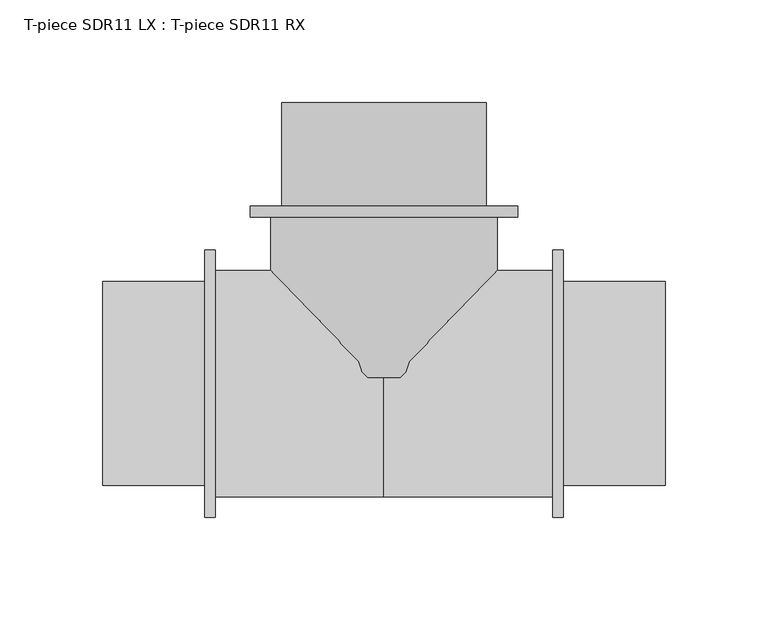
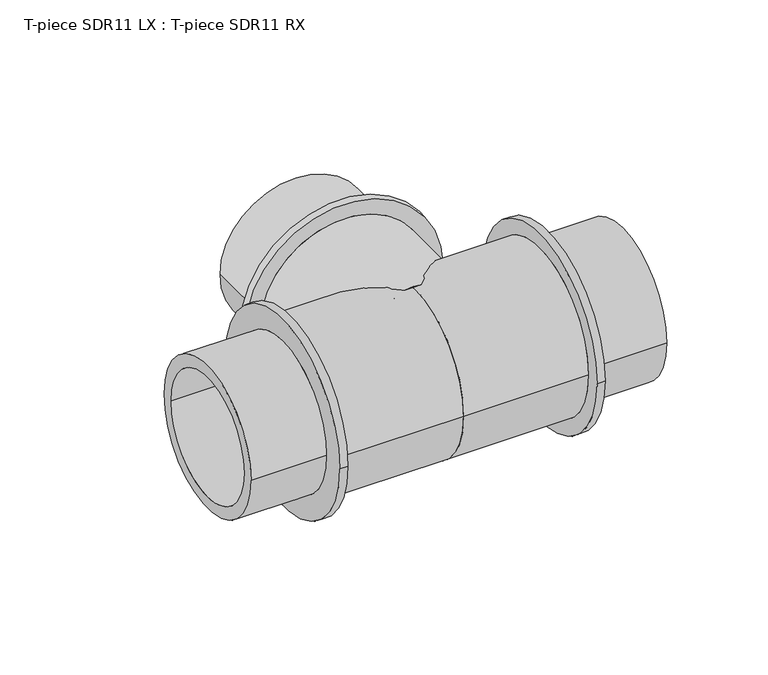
"""IFC4 building model written with IfcOpenShell, lengths in millimetres: pipe fitting geometry, T-piece SDR11 LX : T-piece SDR11 RX."""

from ifc_helpers import new_model, si_unit, point, frame, origin, place, context, project, spatial, polyline, circle_curve, ellipse_curve, trimmed, source, transform, mapped, element, save
from ifc_brep_helpers import plane_surface, cylinder_surface, revolved_surface, advanced_brep


def t_piece_sdr11_lx_t_piece_sdr11_rx_ce744061(model_context):
    return source(origin(), model_context, "Body", "AdvancedBrep", [
        advanced_brep(
        [(55.0, 2.9116037, 0.0), (-55.0, 2.9116037, 0.0), (-55.0, 81.0, 0.0), (55.0, 81.0, 0.0), (41.5, 136.5, 0.0), (-41.5, 136.5, 0.0), (-41.5, 0.0, 0.0), (41.5, 0.0, 0.0), (49.65, 86.3, 0.0), (-49.65, 86.3, 0.0), (-49.65, 136.5, 0.0), (49.65, 136.5, 0.0), (65.0, 81.0, 0.0), (-65.0, 81.0, 0.0), (-65.0, 86.3, 0.0), (65.0, 86.3, 0.0)],
        [
            (0, 1, circle_curve(frame((0.0, 2.9116037, 0.0), z_axis=(0.0, 1.0, 0.0), x_axis=(-1.0, 0.0, 0.0)), 55.0)),
            (1, 2),
            (2, 3, circle_curve(frame((0.0, 81.0, 0.0), z_axis=(0.0, -1.0, 0.0), x_axis=(-1.0, 0.0, 0.0)), 55.0)),
            (3, 0),
            (4, 5, circle_curve(frame((0.0, 136.5, 0.0), z_axis=(0.0, 1.0, 0.0), x_axis=(-1.0, 0.0, 0.0)), 41.5)),
            (5, 6),
            (6, 7, circle_curve(frame((0.0, 0.0, 0.0), z_axis=(0.0, -1.0, 0.0), x_axis=(-1.0, 0.0, 0.0)), 41.5)),
            (7, 4),
            (8, 9, circle_curve(frame((0.0, 86.3, 0.0), z_axis=(0.0, 1.0, 0.0), x_axis=(-1.0, 0.0, 0.0)), 49.65)),
            (9, 10),
            (10, 11, circle_curve(frame((0.0, 136.5, 0.0), z_axis=(0.0, -1.0, 0.0), x_axis=(-1.0, 0.0, 0.0)), 49.65)),
            (11, 8),
            (12, 13, circle_curve(frame((0.0, 81.0, 0.0), z_axis=(0.0, 1.0, 0.0), x_axis=(-1.0, 0.0, 0.0)), 65.0)),
            (13, 14),
            (14, 15, circle_curve(frame((0.0, 86.3, 0.0), z_axis=(0.0, -1.0, 0.0), x_axis=(-1.0, 0.0, 0.0)), 65.0)),
            (15, 12),
            (12, 13, circle_curve(frame((0.0, 81.0, 0.0), z_axis=(0.0, -1.0, 0.0), x_axis=(1.0, 0.0, 0.0)), 65.0)),
            (2, 3, circle_curve(frame((0.0, 81.0, 0.0), z_axis=(0.0, 1.0, 0.0), x_axis=(1.0, 0.0, 0.0)), 55.0)),
            (1, 0, circle_curve(frame((0.0, 2.9116037, 0.0), z_axis=(0.0, 1.0, 0.0), x_axis=(1.0, 0.0, 0.0)), 55.0)),
            (5, 4, circle_curve(frame((0.0, 136.5, 0.0), z_axis=(0.0, 1.0, 0.0), x_axis=(1.0, 0.0, 0.0)), 41.5)),
            (7, 6, circle_curve(frame((0.0, 0.0, 0.0), z_axis=(0.0, -1.0, 0.0), x_axis=(1.0, 0.0, 0.0)), 41.5)),
            (10, 11, circle_curve(frame((0.0, 136.5, 0.0), z_axis=(0.0, 1.0, 0.0), x_axis=(1.0, 0.0, 0.0)), 49.65)),
            (9, 8, circle_curve(frame((0.0, 86.3, 0.0), z_axis=(0.0, 1.0, 0.0), x_axis=(1.0, 0.0, 0.0)), 49.65)),
            (14, 15, circle_curve(frame((0.0, 86.3, 0.0), z_axis=(0.0, 1.0, 0.0), x_axis=(1.0, 0.0, 0.0)), 65.0)),
            (6, 1, circle_curve(frame((-36.7462802, 54.7941799, 0.0), z_axis=(0.0, 0.0, -1.0), x_axis=(0.0, -1.0, 0.0)), 55.0)),
            (0, 7, circle_curve(frame((36.7462802, 54.7941799, 0.0), z_axis=(0.0, 0.0, -1.0), x_axis=(0.0, -1.0, 0.0)), 55.0)),
        ],
        [
            cylinder_surface(frame((0.0, 0.0, 0.0), z_axis=(0.0, -1.0, 0.0), x_axis=(-1.0, 0.0, 0.0)), 55.0),
            revolved_surface(polyline([(-41.5, 0.0, 0.0), (-41.5, 136.5, 0.0)]), (0.0, 0.0, 0.0), (0.0, -1.0, 0.0)),
            cylinder_surface(frame((0.0, 0.0, 0.0), z_axis=(0.0, -1.0, 0.0), x_axis=(-1.0, 0.0, 0.0)), 49.65),
            cylinder_surface(frame((0.0, 0.0, 0.0), z_axis=(0.0, -1.0, 0.0), x_axis=(-1.0, 0.0, 0.0)), 65.0),
            plane_surface(frame((0.0, 81.0, 0.0), z_axis=(0.0, -1.0, 0.0), x_axis=(1.0, 0.0, 0.0))),
            cylinder_surface(frame((0.0, 0.0, 0.0), z_axis=(0.0, -1.0, 0.0), x_axis=(1.0, 0.0, 0.0)), 55.0),
            revolved_surface(polyline([(41.5, 0.0, 0.0), (41.5, 136.5, 0.0)]), (0.0, 0.0, 0.0), (0.0, -1.0, 0.0)),
            plane_surface(frame((0.0, 136.5, 0.0), z_axis=(0.0, 1.0, 0.0), x_axis=(1.0, 0.0, 0.0))),
            cylinder_surface(frame((0.0, 0.0, 0.0), z_axis=(0.0, -1.0, 0.0), x_axis=(1.0, 0.0, 0.0)), 49.65),
            plane_surface(frame((0.0, 86.3, 0.0), z_axis=(0.0, 1.0, 0.0), x_axis=(1.0, 0.0, 0.0))),
            cylinder_surface(frame((0.0, 0.0, 0.0), z_axis=(0.0, -1.0, 0.0), x_axis=(1.0, 0.0, 0.0)), 65.0),
            revolved_surface(trimmed(ellipse_curve(frame((-36.7462802, 54.7941799, 0.0), z_axis=(0.0, 0.0, 1.0), x_axis=(0.0, -1.0, 0.0)), 55.0, 55.0), [point((-55.0, 2.9116037, 0.0))], [point((-41.5, 0.0, 0.0))], True, "CARTESIAN"), (0.0, 0.0, 0.0), (0.0, -1.0, 0.0)),
            revolved_surface(trimmed(ellipse_curve(frame((36.7462802, 54.7941799, 0.0), z_axis=(0.0, 0.0, -1.0), x_axis=(0.0, -1.0, 0.0)), 55.0, 55.0), [point((55.0, 2.9116037, 0.0))], [point((41.5, 0.0, 0.0))], True, "CARTESIAN"), (0.0, 0.0, 0.0), (0.0, -1.0, 0.0)),
        ],
        [
            (0, [[1, 2, 3, 4]]),
            (1, [[5, 6, 7, 8]]),
            (2, [[9, 10, 11, 12]]),
            (3, [[13, 14, 15, 16]]),
            (4, [[17, -13], [18, -3]]),
            (5, [[19, -4, -18, -2]]),
            (6, [[20, -8, 21, -6]]),
            (7, [[22, -11], [-20, -5]]),
            (8, [[23, -12, -22, -10]]),
            (9, [[24, -15], [-23, -9]]),
            (10, [[-17, -16, -24, -14]]),
            (11, [[-7, 25, -1, 26]]),
            (12, [[-21, -26, -19, -25]]),
        ],
    ),
        advanced_brep(
        [(81.9, 55.0, 0.0), (81.9, -55.0, 0.0), (0.0, -55.0, 0.0), (0.0, 55.0, 0.0), (0.0, 41.5, 0.0), (0.0, -41.5, 0.0), (136.6, -41.5, 0.0), (136.6, 41.5, 0.0), (136.6, 49.65, 0.0), (136.6, -49.65, 0.0), (87.2, -49.65, 0.0), (87.2, 49.65, 0.0), (87.2, 65.0, 0.0), (87.2, -65.0, 0.0), (81.9, -65.0, 0.0), (81.9, 65.0, 0.0)],
        [
            (0, 1, circle_curve(frame((81.9, 0.0, 0.0), z_axis=(-1.0, 0.0, 0.0), x_axis=(0.0, -1.0, 0.0)), 55.0)),
            (1, 2),
            (2, 3, circle_curve(frame((0.0, 0.0, 0.0), z_axis=(1.0, 0.0, 0.0), x_axis=(0.0, -1.0, 0.0)), 55.0)),
            (3, 0),
            (4, 5, circle_curve(frame((0.0, 0.0, 0.0), z_axis=(-1.0, 0.0, 0.0), x_axis=(0.0, -1.0, 0.0)), 41.5)),
            (5, 6),
            (6, 7, circle_curve(frame((136.6, 0.0, 0.0), z_axis=(1.0, 0.0, 0.0), x_axis=(0.0, -1.0, 0.0)), 41.5)),
            (7, 4),
            (8, 9, circle_curve(frame((136.6, 0.0, 0.0), z_axis=(-1.0, 0.0, 0.0), x_axis=(0.0, -1.0, 0.0)), 49.65)),
            (9, 10),
            (10, 11, circle_curve(frame((87.2, 0.0, 0.0), z_axis=(1.0, 0.0, 0.0), x_axis=(0.0, -1.0, 0.0)), 49.65)),
            (11, 8),
            (12, 13, circle_curve(frame((87.2, 0.0, 0.0), z_axis=(-1.0, 0.0, 0.0), x_axis=(0.0, -1.0, 0.0)), 65.0)),
            (13, 14),
            (14, 15, circle_curve(frame((81.9, 0.0, 0.0), z_axis=(1.0, 0.0, 0.0), x_axis=(0.0, -1.0, 0.0)), 65.0)),
            (15, 12),
            (14, 15, circle_curve(frame((81.9, 0.0, 0.0), z_axis=(-1.0, 0.0, 0.0), x_axis=(0.0, 1.0, 0.0)), 65.0)),
            (0, 1, circle_curve(frame((81.9, 0.0, 0.0), z_axis=(1.0, 0.0, 0.0), x_axis=(0.0, 1.0, 0.0)), 55.0)),
            (3, 2, circle_curve(frame((0.0, 0.0, 0.0), z_axis=(1.0, 0.0, 0.0), x_axis=(0.0, 1.0, 0.0)), 55.0)),
            (4, 5, circle_curve(frame((0.0, 0.0, 0.0), z_axis=(1.0, 0.0, 0.0), x_axis=(0.0, 1.0, 0.0)), 41.5)),
            (7, 6, circle_curve(frame((136.6, 0.0, 0.0), z_axis=(1.0, 0.0, 0.0), x_axis=(0.0, 1.0, 0.0)), 41.5)),
            (8, 9, circle_curve(frame((136.6, 0.0, 0.0), z_axis=(1.0, 0.0, 0.0), x_axis=(0.0, 1.0, 0.0)), 49.65)),
            (11, 10, circle_curve(frame((87.2, 0.0, 0.0), z_axis=(1.0, 0.0, 0.0), x_axis=(0.0, 1.0, 0.0)), 49.65)),
            (12, 13, circle_curve(frame((87.2, 0.0, 0.0), z_axis=(1.0, 0.0, 0.0), x_axis=(0.0, 1.0, 0.0)), 65.0)),
        ],
        [
            cylinder_surface(frame((0.0, 0.0, 0.0), z_axis=(1.0, 0.0, 0.0), x_axis=(0.0, -1.0, 0.0)), 55.0),
            revolved_surface(polyline([(136.6, -41.5, 0.0), (0.0, -41.5, 0.0)]), (0.0, 0.0, 0.0), (1.0, 0.0, 0.0)),
            cylinder_surface(frame((0.0, 0.0, 0.0), z_axis=(1.0, 0.0, 0.0), x_axis=(0.0, -1.0, 0.0)), 49.65),
            cylinder_surface(frame((0.0, 0.0, 0.0), z_axis=(1.0, 0.0, 0.0), x_axis=(0.0, -1.0, 0.0)), 65.0),
            plane_surface(frame((81.9, 0.0, 0.0), z_axis=(-1.0, 0.0, 0.0), x_axis=(0.0, 1.0, 0.0))),
            cylinder_surface(frame((0.0, 0.0, 0.0), z_axis=(1.0, 0.0, 0.0), x_axis=(0.0, 1.0, 0.0)), 55.0),
            plane_surface(frame((0.0, 0.0, 0.0), z_axis=(-1.0, 0.0, 0.0), x_axis=(0.0, 1.0, 0.0))),
            revolved_surface(polyline([(136.6, 41.5, 0.0), (0.0, 41.5, 0.0)]), (0.0, 0.0, 0.0), (1.0, 0.0, 0.0)),
            plane_surface(frame((136.6, 0.0, 0.0), z_axis=(1.0, 0.0, 0.0), x_axis=(0.0, 1.0, 0.0))),
            cylinder_surface(frame((0.0, 0.0, 0.0), z_axis=(1.0, 0.0, 0.0), x_axis=(0.0, 1.0, 0.0)), 49.65),
            plane_surface(frame((87.2, 0.0, 0.0), z_axis=(1.0, 0.0, 0.0), x_axis=(0.0, 1.0, 0.0))),
            cylinder_surface(frame((0.0, 0.0, 0.0), z_axis=(1.0, 0.0, 0.0), x_axis=(0.0, 1.0, 0.0)), 65.0),
        ],
        [
            (0, [[1, 2, 3, 4]]),
            (1, [[5, 6, 7, 8]]),
            (2, [[9, 10, 11, 12]]),
            (3, [[13, 14, 15, 16]]),
            (4, [[17, -15], [18, -1]]),
            (5, [[-18, -4, 19, -2]]),
            (6, [[-19, -3], [20, -5]]),
            (7, [[-20, -8, 21, -6]]),
            (8, [[22, -9], [-21, -7]]),
            (9, [[-22, -12, 23, -10]]),
            (10, [[24, -13], [-23, -11]]),
            (11, [[-24, -16, -17, -14]]),
        ],
    ),
        advanced_brep(
        [(0.0, 55.0, 0.0), (0.0, -55.0, 0.0), (-81.9, -55.0, 0.0), (-81.9, 55.0, 0.0), (-136.6, 41.5, 0.0), (-136.6, -41.5, 0.0), (0.0, -41.5, 0.0), (0.0, 41.5, 0.0), (-87.2, 49.65, 0.0), (-87.2, -49.65, 0.0), (-136.6, -49.65, 0.0), (-136.6, 49.65, 0.0), (-81.9, 65.0, 0.0), (-81.9, -65.0, 0.0), (-87.2, -65.0, 0.0), (-87.2, 65.0, 0.0)],
        [
            (0, 1, circle_curve(frame((0.0, 0.0, 0.0), z_axis=(-1.0, 0.0, 0.0), x_axis=(0.0, -1.0, 0.0)), 55.0)),
            (1, 2),
            (2, 3, circle_curve(frame((-81.9, 0.0, 0.0), z_axis=(1.0, 0.0, 0.0), x_axis=(0.0, -1.0, 0.0)), 55.0)),
            (3, 0),
            (4, 5, circle_curve(frame((-136.6, 0.0, 0.0), z_axis=(-1.0, 0.0, 0.0), x_axis=(0.0, -1.0, 0.0)), 41.5)),
            (5, 6),
            (6, 7, circle_curve(frame((0.0, 0.0, 0.0), z_axis=(1.0, 0.0, 0.0), x_axis=(0.0, -1.0, 0.0)), 41.5)),
            (7, 4),
            (8, 9, circle_curve(frame((-87.2, 0.0, 0.0), z_axis=(-1.0, 0.0, 0.0), x_axis=(0.0, -1.0, 0.0)), 49.65)),
            (9, 10),
            (10, 11, circle_curve(frame((-136.6, 0.0, 0.0), z_axis=(1.0, 0.0, 0.0), x_axis=(0.0, -1.0, 0.0)), 49.65)),
            (11, 8),
            (12, 13, circle_curve(frame((-81.9, 0.0, 0.0), z_axis=(-1.0, 0.0, 0.0), x_axis=(0.0, -1.0, 0.0)), 65.0)),
            (13, 14),
            (14, 15, circle_curve(frame((-87.2, 0.0, 0.0), z_axis=(1.0, 0.0, 0.0), x_axis=(0.0, -1.0, 0.0)), 65.0)),
            (15, 12),
            (12, 13, circle_curve(frame((-81.9, 0.0, 0.0), z_axis=(1.0, 0.0, 0.0), x_axis=(0.0, 1.0, 0.0)), 65.0)),
            (2, 3, circle_curve(frame((-81.9, 0.0, 0.0), z_axis=(-1.0, 0.0, 0.0), x_axis=(0.0, 1.0, 0.0)), 55.0)),
            (1, 0, circle_curve(frame((0.0, 0.0, 0.0), z_axis=(-1.0, 0.0, 0.0), x_axis=(0.0, 1.0, 0.0)), 55.0)),
            (6, 7, circle_curve(frame((0.0, 0.0, 0.0), z_axis=(-1.0, 0.0, 0.0), x_axis=(0.0, 1.0, 0.0)), 41.5)),
            (5, 4, circle_curve(frame((-136.6, 0.0, 0.0), z_axis=(-1.0, 0.0, 0.0), x_axis=(0.0, 1.0, 0.0)), 41.5)),
            (10, 11, circle_curve(frame((-136.6, 0.0, 0.0), z_axis=(-1.0, 0.0, 0.0), x_axis=(0.0, 1.0, 0.0)), 49.65)),
            (9, 8, circle_curve(frame((-87.2, 0.0, 0.0), z_axis=(-1.0, 0.0, 0.0), x_axis=(0.0, 1.0, 0.0)), 49.65)),
            (14, 15, circle_curve(frame((-87.2, 0.0, 0.0), z_axis=(-1.0, 0.0, 0.0), x_axis=(0.0, 1.0, 0.0)), 65.0)),
        ],
        [
            cylinder_surface(frame((0.0, 0.0, 0.0), z_axis=(1.0, 0.0, 0.0), x_axis=(0.0, -1.0, 0.0)), 55.0),
            revolved_surface(polyline([(0.0, -41.5, 0.0), (-136.6, -41.5, 0.0)]), (0.0, 0.0, 0.0), (1.0, 0.0, 0.0)),
            cylinder_surface(frame((0.0, 0.0, 0.0), z_axis=(1.0, 0.0, 0.0), x_axis=(0.0, -1.0, 0.0)), 49.65),
            cylinder_surface(frame((0.0, 0.0, 0.0), z_axis=(1.0, 0.0, 0.0), x_axis=(0.0, -1.0, 0.0)), 65.0),
            plane_surface(frame((-81.9, 0.0, 0.0), z_axis=(1.0, 0.0, 0.0), x_axis=(0.0, 1.0, 0.0))),
            cylinder_surface(frame((0.0, 0.0, 0.0), z_axis=(1.0, 0.0, 0.0), x_axis=(0.0, 1.0, 0.0)), 55.0),
            plane_surface(frame((0.0, 0.0, 0.0), z_axis=(1.0, 0.0, 0.0), x_axis=(0.0, 1.0, 0.0))),
            revolved_surface(polyline([(0.0, 41.5, 0.0), (-136.6, 41.5, 0.0)]), (0.0, 0.0, 0.0), (1.0, 0.0, 0.0)),
            plane_surface(frame((-136.6, 0.0, 0.0), z_axis=(-1.0, 0.0, 0.0), x_axis=(0.0, 1.0, 0.0))),
            cylinder_surface(frame((0.0, 0.0, 0.0), z_axis=(1.0, 0.0, 0.0), x_axis=(0.0, 1.0, 0.0)), 49.65),
            plane_surface(frame((-87.2, 0.0, 0.0), z_axis=(-1.0, 0.0, 0.0), x_axis=(0.0, 1.0, 0.0))),
            cylinder_surface(frame((0.0, 0.0, 0.0), z_axis=(1.0, 0.0, 0.0), x_axis=(0.0, 1.0, 0.0)), 65.0),
        ],
        [
            (0, [[1, 2, 3, 4]]),
            (1, [[5, 6, 7, 8]]),
            (2, [[9, 10, 11, 12]]),
            (3, [[13, 14, 15, 16]]),
            (4, [[17, -13], [18, -3]]),
            (5, [[19, -4, -18, -2]]),
            (6, [[-19, -1], [20, -7]]),
            (7, [[21, -8, -20, -6]]),
            (8, [[22, -11], [-21, -5]]),
            (9, [[23, -12, -22, -10]]),
            (10, [[24, -15], [-23, -9]]),
            (11, [[-17, -16, -24, -14]]),
        ],
    ),
    ])


if __name__ == "__main__":
    model = new_model("IFC4")
    model_context = context("Model", 3, world=origin())
    ifc_project = project(units=[si_unit("LENGTHUNIT", "METRE", prefix="MILLI")], contexts=[model_context])
    site = spatial("IfcSite", under=ifc_project)
    building = spatial("IfcBuilding", under=site)
    placement = place(None, origin())
    t_piece_sdr11_lx_t_piece_sdr11_rx_shape = t_piece_sdr11_lx_t_piece_sdr11_rx_ce744061(model_context)
    element("IfcPipeFitting", 1, ObjectType="T-piece SDR11 LX : T-piece SDR11 RX", at=placement, inside=building, context=model_context, shape_type="MappedRepresentation", body=[
        mapped(t_piece_sdr11_lx_t_piece_sdr11_rx_shape, transform((0.0, 0.0, 0.0), x_axis=(1.0, 0.0, 0.0), y_axis=(0.0, 1.0, 0.0), z_axis=(0.0, 0.0, 1.0))),
    ])
    save(model, "model.ifc")
